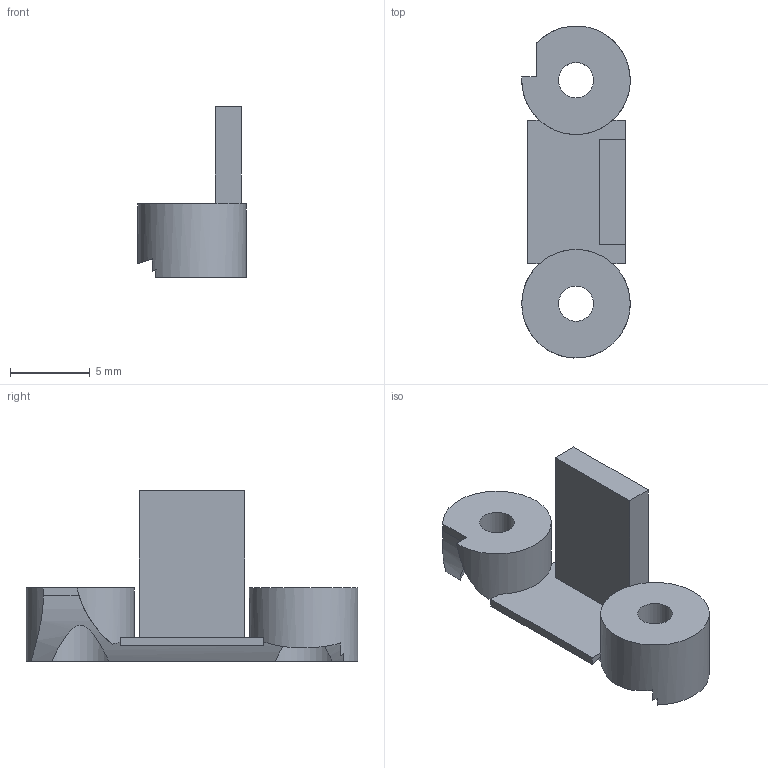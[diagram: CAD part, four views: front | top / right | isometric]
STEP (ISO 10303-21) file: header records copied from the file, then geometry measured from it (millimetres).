
FILE_DESCRIPTION(/* description */ (''),/* implementation_level */ '2;1');
FILE_NAME(/* name */ 'P18.step',/* time_stamp */ '2026-09-15T15:15:09-07:00',/* author */ (''),/* organization */ (''),/* preprocessor_version */ 'ST-DEVELOPER v20.1',/* originating_system */ 'Autodesk Translation Framework v15.8.0.0',/* authorisation */ '');
FILE_SCHEMA (('AUTOMOTIVE_DESIGN { 1 0 10303 214 3 1 1 }'));
Length unit declared in the file: millimetre
Products named in the file (1): 2026-09-15-15-15-09-390
Bounding box: 6.8 x 20.8 x 10.7 mm (x, y, z)
Volume: 372.7 mm3; surface area: 672.9 mm2
Topology: 1 solids, 1 shells, 30 faces, 84 edges, 56 vertices
Faces by surface type: plane 21, cylinder 9
Full cylindrical faces by diameter (mm): 2.2 x2, 4.6 x2, 6.8 x1
Entity records: 1156 total; most frequent: CARTESIAN_POINT 328, ORIENTED_EDGE 168, DIRECTION 163, EDGE_CURVE 84, VERTEX_POINT 56, AXIS2_PLACEMENT_3D 55, LINE 53, VECTOR 53
